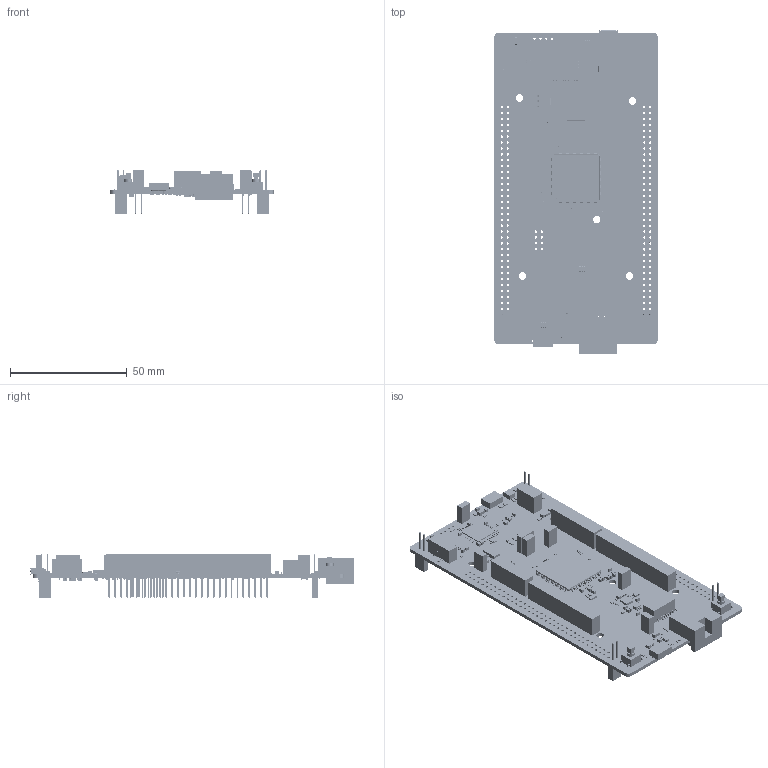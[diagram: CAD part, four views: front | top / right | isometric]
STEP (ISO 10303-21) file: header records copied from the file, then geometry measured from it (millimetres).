
FILE_DESCRIPTION(('Open CASCADE Model'),'2;1');
FILE_NAME('Open CASCADE Shape Model','2025-06-24T10:52:31',('Author'),( 'Open CASCADE'),'Open CASCADE STEP processor 7.5','Open CASCADE 7.5' ,'Unknown');
FILE_SCHEMA(('AUTOMOTIVE_DESIGN { 1 0 10303 214 1 1 1 1 }'));
Length unit declared in the file: millimetre
Products named in the file (533): PCB; Board; Open CASCADE STEP translator 7.5 2.1.1; R73; R0603; 7387922144; Extruded; R72; R27; 7387617616; R75; R74; R26; Q3; SOT23-3_TO-236AB; 6666687920; Q2; LD3; 7388215072; Cylinder; 7388214912; 7388214752; 7388214592; 7388214352; LD2; 7388213792; 7388213552; 7388213312; 7388213152; SB45; 7387619136; SB41; SB37; R0402; 6666688320; SB42; SB33; SB93; SB73; 7387619536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
Assembly tree (1312 placements, depth 4):
  PCB
    Board
      Open CASCADE STEP translator 7.5 2.1.1
    R73
      R0603
      7387922144
        Extruded
    R72
      R0603
      7387922144
        Extruded
    R27
      R0603
      7387617616
        Extruded
    R75
      R0603
      7387922144
        Extruded
    R74
      R0603
      7387922144
        Extruded
    R26
      R0603
      7387617616
        Extruded
    Q3
      SOT23-3_TO-236AB
      6666687920
        Extruded
    Q2
      SOT23-3_TO-236AB
      6666687920
        Extruded
    LD3
      7388215072
        Cylinder
      7388214912
        Extruded
      7388214752
        Extruded
      7388214592  x2
        Extruded
      7388214352  x2
        Extruded
    LD2
      7388213792  x2
        Extruded
      7388213552  x2
        Extruded
      7388213312
        Extruded
      7388213152
        Extruded
    SB45
      R0603
      7387619136
        Extruded
    SB41
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Bounding box: 70 x 138.56 x 18.57 mm (x, y, z)
Volume: 32438.4 mm3; surface area: 48058.4 mm2
Topology: 1303 solids, 2219 shells, 41419 faces, 100408 edges, 61275 vertices
Faces by surface type: plane 19607, cylinder 9611, bspline 8308, sphere 3029, torus 470, revolution 392, cone 2
Full cylindrical faces by diameter (mm): 0.2 x2, 0.3 x1, 0.4 x16, 0.5 x1, 0.6 x1, 0.7 x12, 0.9 x2, 0.97 x2, 1 x183, 1.1 x100, 1.19 x2, 1.5 x2, 3.2 x5, 3.4 x2
Entity records: 326437 total; most frequent: CARTESIAN_POINT 64964, DIRECTION 45353, ORIENTED_EDGE 44503, EDGE_CURVE 22934, LINE 18915, VECTOR 18915, VERTEX_POINT 15208, AXIS2_PLACEMENT_3D 13215
